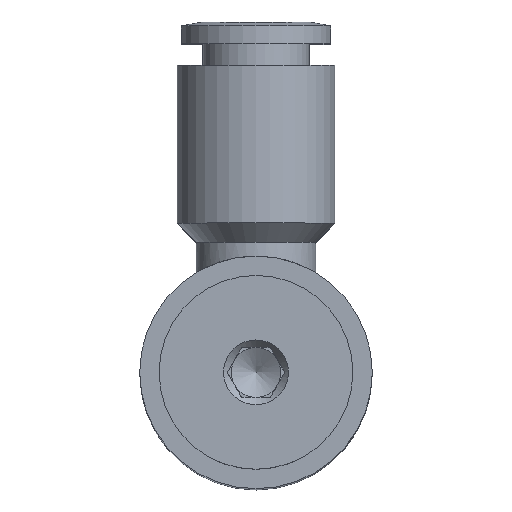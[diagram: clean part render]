
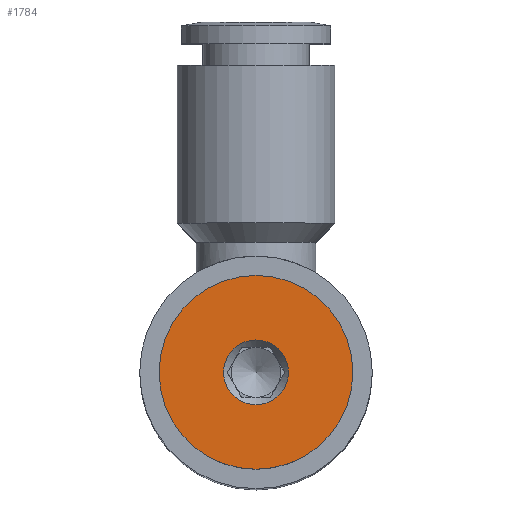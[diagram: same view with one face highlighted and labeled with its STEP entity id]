
A CAD part, top view. The second image highlights one B-rep face of the part: STEP entity #1784.
In plain terms, the highlighted planar face has unit normal (0, 0, 1).
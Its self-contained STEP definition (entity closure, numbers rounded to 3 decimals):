
#971=CARTESIAN_POINT('',(1.95,0.0,39.25));
#972=VERTEX_POINT('',#971);
#973=CARTESIAN_POINT('',(0.0,0.0,39.25));
#974=DIRECTION('',(0.0,0.0,-1.0));
#975=DIRECTION('',(1.0,0.0,0.0));
#976=AXIS2_PLACEMENT_3D('',#973,#974,#975);
#977=CIRCLE('',#976,1.95);
#978=EDGE_CURVE('',#972,#972,#977,.T.);
#1758=CARTESIAN_POINT('',(0.0,-5.833,39.25));
#1759=VERTEX_POINT('',#1758);
#1760=CARTESIAN_POINT('',(0.0,0.0,39.25));
#1761=DIRECTION('',(0.0,0.0,1.0));
#1762=DIRECTION('',(0.0,-1.0,0.0));
#1763=AXIS2_PLACEMENT_3D('',#1760,#1761,#1762);
#1764=CIRCLE('',#1763,5.833);
#1765=EDGE_CURVE('',#1759,#1759,#1764,.T.);
#1773=CARTESIAN_POINT('',(0.0,-2.917,39.25));
#1774=DIRECTION('',(0.0,0.0,1.0));
#1775=DIRECTION('',(1.0,0.0,0.0));
#1776=AXIS2_PLACEMENT_3D('',#1773,#1774,#1775);
#1777=PLANE('',#1776);
#1778=ORIENTED_EDGE('',*,*,#1765,.T.);
#1779=EDGE_LOOP('',(#1778));
#1780=FACE_OUTER_BOUND('',#1779,.T.);
#1781=ORIENTED_EDGE('',*,*,#978,.T.);
#1782=EDGE_LOOP('',(#1781));
#1783=FACE_BOUND('',#1782,.T.);
#1784=ADVANCED_FACE('',(#1780,#1783),#1777,.T.);
